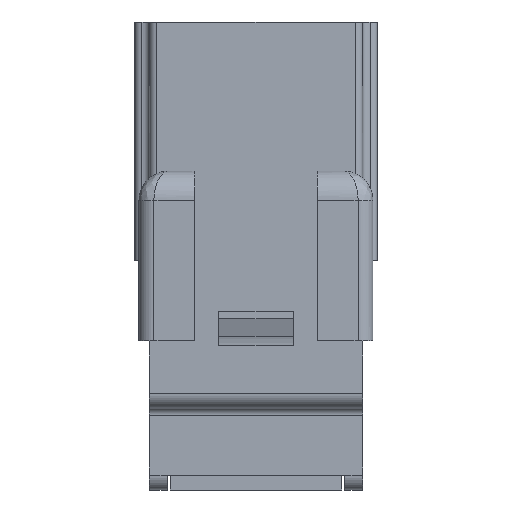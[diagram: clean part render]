
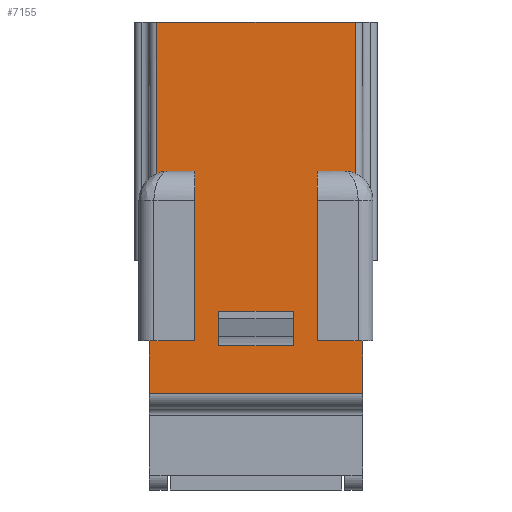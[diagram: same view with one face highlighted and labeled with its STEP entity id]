
A CAD part, front view. The second image highlights one B-rep face of the part: STEP entity #7155.
In plain terms, the highlighted planar face has unit normal (0, -1, 0).
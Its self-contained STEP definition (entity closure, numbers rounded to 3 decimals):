
#187=DIRECTION('',(-1.,0.,0.));
#188=VECTOR('',#187,13.3);
#189=CARTESIAN_POINT('',(6.65,-5.7,0.));
#190=LINE('',#189,#188);
#377=DIRECTION('',(0.,0.,1.));
#378=VECTOR('',#377,3.5);
#379=CARTESIAN_POINT('',(7.15,-5.7,-24.9));
#380=LINE('',#379,#378);
#586=DIRECTION('',(0.,0.,-1.));
#587=VECTOR('',#586,3.5);
#588=CARTESIAN_POINT('',(-7.15,-5.7,-21.4));
#589=LINE('',#588,#587);
#1186=DIRECTION('',(1.,0.,0.));
#1187=VECTOR('',#1186,5.);
#1188=CARTESIAN_POINT('',(-2.5,-5.7,-21.725));
#1189=LINE('',#1188,#1187);
#1190=DIRECTION('',(-1.,0.,0.));
#1191=VECTOR('',#1190,5.);
#1192=CARTESIAN_POINT('',(2.5,-5.7,-19.4));
#1193=LINE('',#1192,#1191);
#1194=CARTESIAN_POINT('',(6.35,-5.7,-12.7));
#1195=DIRECTION('',(0.,-1.,0.));
#1196=DIRECTION('',(1.,0.,0.));
#1197=AXIS2_PLACEMENT_3D('',#1194,#1195,#1196);
#1199=DIRECTION('',(-1.,0.,0.));
#1200=VECTOR('',#1199,0.6);
#1201=CARTESIAN_POINT('',(7.15,-5.7,-21.4));
#1202=LINE('',#1201,#1200);
#1203=DIRECTION('',(-1.,0.,0.));
#1204=VECTOR('',#1203,14.3);
#1205=CARTESIAN_POINT('',(7.15,-5.7,-24.9));
#1206=LINE('',#1205,#1204);
#1207=DIRECTION('',(-1.,0.,0.));
#1208=VECTOR('',#1207,0.6);
#1209=CARTESIAN_POINT('',(-6.55,-5.7,-21.4));
#1210=LINE('',#1209,#1208);
#1211=CARTESIAN_POINT('',(-6.35,-5.7,-12.7));
#1212=DIRECTION('',(0.,-1.,0.));
#1213=DIRECTION('',(0.,0.,1.));
#1214=AXIS2_PLACEMENT_3D('',#1211,#1212,#1213);
#1216=DIRECTION('',(0.,0.,1.));
#1217=VECTOR('',#1216,2.5);
#1218=CARTESIAN_POINT('',(-4.1,-5.7,-12.5));
#1219=LINE('',#1218,#1217);
#1220=DIRECTION('',(-1.,0.,0.));
#1221=VECTOR('',#1220,1.75);
#1222=CARTESIAN_POINT('',(-4.1,-5.7,-10.));
#1223=LINE('',#1222,#1221);
#1224=DIRECTION('',(-1.,0.,0.));
#1225=VECTOR('',#1224,1.75);
#1226=CARTESIAN_POINT('',(5.85,-5.7,-10.));
#1227=LINE('',#1226,#1225);
#1228=DIRECTION('',(0.,0.,1.));
#1229=VECTOR('',#1228,2.5);
#1230=CARTESIAN_POINT('',(4.1,-5.7,-12.5));
#1231=LINE('',#1230,#1229);
#1242=DIRECTION('',(0.,0.,-1.));
#1243=VECTOR('',#1242,2.325);
#1244=CARTESIAN_POINT('',(2.5,-5.7,-19.4));
#1245=LINE('',#1244,#1243);
#1266=DIRECTION('',(0.,0.,1.));
#1267=VECTOR('',#1266,2.325);
#1268=CARTESIAN_POINT('',(-2.5,-5.7,-21.725));
#1269=LINE('',#1268,#1267);
#1294=DIRECTION('',(1.,0.,0.));
#1295=VECTOR('',#1294,2.25);
#1296=CARTESIAN_POINT('',(4.1,-5.7,-12.5));
#1297=LINE('',#1296,#1295);
#1306=DIRECTION('',(1.,0.,0.));
#1307=VECTOR('',#1306,2.25);
#1308=CARTESIAN_POINT('',(-6.35,-5.7,-12.5));
#1309=LINE('',#1308,#1307);
#1576=CARTESIAN_POINT('',(-6.65,-5.7,-10.167));
#1578=CARTESIAN_POINT('',(-5.85,-5.7,-12.));
#1579=DIRECTION('',(0.,1.,0.));
#1580=DIRECTION('',(-0.4,0.,0.917));
#1581=AXIS2_PLACEMENT_3D('',#1578,#1579,#1580);
#1592=DIRECTION('',(0.,0.,-1.));
#1593=VECTOR('',#1592,10.167);
#1594=CARTESIAN_POINT('',(-6.65,-5.7,0.));
#1595=LINE('',#1594,#1593);
#1679=DIRECTION('',(0.,0.,1.));
#1680=VECTOR('',#1679,8.7);
#1681=CARTESIAN_POINT('',(-6.55,-5.7,-21.4));
#1682=LINE('',#1681,#1680);
#1711=CARTESIAN_POINT('',(5.85,-5.7,-12.));
#1712=DIRECTION('',(0.,1.,0.));
#1713=DIRECTION('',(0.,0.,1.));
#1714=AXIS2_PLACEMENT_3D('',#1711,#1712,#1713);
#1716=CARTESIAN_POINT('',(6.65,-5.7,-10.167));
#1792=DIRECTION('',(0.,0.,1.));
#1793=VECTOR('',#1792,10.167);
#1794=CARTESIAN_POINT('',(6.65,-5.7,-10.167));
#1795=LINE('',#1794,#1793);
#1808=DIRECTION('',(0.,0.,1.));
#1809=VECTOR('',#1808,8.7);
#1810=CARTESIAN_POINT('',(6.55,-5.7,-21.4));
#1811=LINE('',#1810,#1809);
#4410=CARTESIAN_POINT('',(7.15,-5.7,-24.9));
#4411=CARTESIAN_POINT('',(-7.15,-5.7,-24.9));
#4412=VERTEX_POINT('',#4410);
#4413=VERTEX_POINT('',#4411);
#4418=CARTESIAN_POINT('',(7.15,-5.7,-21.4));
#4420=VERTEX_POINT('',#4418);
#4430=CARTESIAN_POINT('',(-7.15,-5.7,-21.4));
#4432=VERTEX_POINT('',#4430);
#4435=VERTEX_POINT('',#1576);
#4448=CARTESIAN_POINT('',(-5.85,-5.7,-10.));
#4449=VERTEX_POINT('',#4448);
#4463=CARTESIAN_POINT('',(5.85,-5.7,-10.));
#4465=VERTEX_POINT('',#4463);
#4472=CARTESIAN_POINT('',(4.1,-5.7,-10.));
#4473=VERTEX_POINT('',#4472);
#4474=CARTESIAN_POINT('',(-4.1,-5.7,-10.));
#4475=VERTEX_POINT('',#4474);
#4477=CARTESIAN_POINT('',(2.5,-5.7,-21.725));
#4479=VERTEX_POINT('',#4477);
#4590=VERTEX_POINT('',#1716);
#4624=CARTESIAN_POINT('',(-2.5,-5.7,-21.725));
#4626=VERTEX_POINT('',#4624);
#5344=CARTESIAN_POINT('',(2.5,-5.7,-19.4));
#5345=CARTESIAN_POINT('',(-2.5,-5.7,-19.4));
#5346=VERTEX_POINT('',#5344);
#5347=VERTEX_POINT('',#5345);
#5348=CARTESIAN_POINT('',(6.55,-5.7,-21.4));
#5349=VERTEX_POINT('',#5348);
#5350=CARTESIAN_POINT('',(4.1,-5.7,-12.5));
#5351=VERTEX_POINT('',#5350);
#5354=CARTESIAN_POINT('',(-6.55,-5.7,-21.4));
#5355=VERTEX_POINT('',#5354);
#5356=CARTESIAN_POINT('',(-4.1,-5.7,-12.5));
#5357=VERTEX_POINT('',#5356);
#5500=CARTESIAN_POINT('',(6.65,-5.7,0.));
#5502=VERTEX_POINT('',#5500);
#5505=CARTESIAN_POINT('',(-6.65,-5.7,0.));
#5507=VERTEX_POINT('',#5505);
#5700=CARTESIAN_POINT('',(6.55,-5.7,-12.7));
#5701=CARTESIAN_POINT('',(6.35,-5.7,-12.5));
#5702=VERTEX_POINT('',#5700);
#5703=VERTEX_POINT('',#5701);
#5704=CARTESIAN_POINT('',(-6.35,-5.7,-12.5));
#5705=CARTESIAN_POINT('',(-6.55,-5.7,-12.7));
#5706=VERTEX_POINT('',#5704);
#5707=VERTEX_POINT('',#5705);
#7102=CARTESIAN_POINT('',(8.15,-5.7,-24.9));
#7103=DIRECTION('',(0.,-1.,0.));
#7104=DIRECTION('',(0.,0.,1.));
#7105=AXIS2_PLACEMENT_3D('',#7102,#7103,#7104);
#7106=PLANE('',#7105);
#7108=ORIENTED_EDGE('',*,*,#7107,.F.);
#7110=ORIENTED_EDGE('',*,*,#7109,.F.);
#7112=ORIENTED_EDGE('',*,*,#7111,.F.);
#7113=ORIENTED_EDGE('',*,*,#5935,.F.);
#7114=ORIENTED_EDGE('',*,*,#7096,.T.);
#7115=ORIENTED_EDGE('',*,*,#6237,.F.);
#7117=ORIENTED_EDGE('',*,*,#7116,.F.);
#7119=ORIENTED_EDGE('',*,*,#7118,.T.);
#7121=ORIENTED_EDGE('',*,*,#7120,.F.);
#7123=ORIENTED_EDGE('',*,*,#7122,.T.);
#7125=ORIENTED_EDGE('',*,*,#7124,.T.);
#7127=ORIENTED_EDGE('',*,*,#7126,.T.);
#7129=ORIENTED_EDGE('',*,*,#7128,.F.);
#7131=ORIENTED_EDGE('',*,*,#7130,.F.);
#7132=ORIENTED_EDGE('',*,*,#5795,.F.);
#7134=ORIENTED_EDGE('',*,*,#7133,.F.);
#7136=ORIENTED_EDGE('',*,*,#7135,.F.);
#7138=ORIENTED_EDGE('',*,*,#7137,.T.);
#7140=ORIENTED_EDGE('',*,*,#7139,.F.);
#7142=ORIENTED_EDGE('',*,*,#7141,.T.);
#7143=EDGE_LOOP('',(#7108,#7110,#7112,#7113,#7114,#7115,#7117,#7119,#7121,#7123,
#7125,#7127,#7129,#7131,#7132,#7134,#7136,#7138,#7140,#7142));
#7144=FACE_OUTER_BOUND('',#7143,.F.);
#7146=ORIENTED_EDGE('',*,*,#7145,.T.);
#7148=ORIENTED_EDGE('',*,*,#7147,.F.);
#7150=ORIENTED_EDGE('',*,*,#7149,.T.);
#7152=ORIENTED_EDGE('',*,*,#7151,.F.);
#7153=EDGE_LOOP('',(#7146,#7148,#7150,#7152));
#7154=FACE_BOUND('',#7153,.F.);
#1198=CIRCLE('',#1197,0.2);
#1215=CIRCLE('',#1214,0.2);
#1582=CIRCLE('',#1581,2.);
#1715=CIRCLE('',#1714,2.);
#5795=EDGE_CURVE('',#5502,#5507,#190,.T.);
#5935=EDGE_CURVE('',#4412,#4420,#380,.T.);
#6237=EDGE_CURVE('',#4432,#4413,#589,.T.);
#7096=EDGE_CURVE('',#4412,#4413,#1206,.T.);
#7107=EDGE_CURVE('',#5702,#5703,#1198,.T.);
#7109=EDGE_CURVE('',#5349,#5702,#1811,.T.);
#7111=EDGE_CURVE('',#4420,#5349,#1202,.T.);
#7116=EDGE_CURVE('',#5355,#4432,#1210,.T.);
#7118=EDGE_CURVE('',#5355,#5707,#1682,.T.);
#7120=EDGE_CURVE('',#5706,#5707,#1215,.T.);
#7122=EDGE_CURVE('',#5706,#5357,#1309,.T.);
#7124=EDGE_CURVE('',#5357,#4475,#1219,.T.);
#7126=EDGE_CURVE('',#4475,#4449,#1223,.T.);
#7128=EDGE_CURVE('',#4435,#4449,#1582,.T.);
#7130=EDGE_CURVE('',#5507,#4435,#1595,.T.);
#7133=EDGE_CURVE('',#4590,#5502,#1795,.T.);
#7135=EDGE_CURVE('',#4465,#4590,#1715,.T.);
#7137=EDGE_CURVE('',#4465,#4473,#1227,.T.);
#7139=EDGE_CURVE('',#5351,#4473,#1231,.T.);
#7141=EDGE_CURVE('',#5351,#5703,#1297,.T.);
#7145=EDGE_CURVE('',#4626,#4479,#1189,.T.);
#7147=EDGE_CURVE('',#5346,#4479,#1245,.T.);
#7149=EDGE_CURVE('',#5346,#5347,#1193,.T.);
#7151=EDGE_CURVE('',#4626,#5347,#1269,.T.);
#7155=ADVANCED_FACE('',(#7144,#7154),#7106,.T.);
